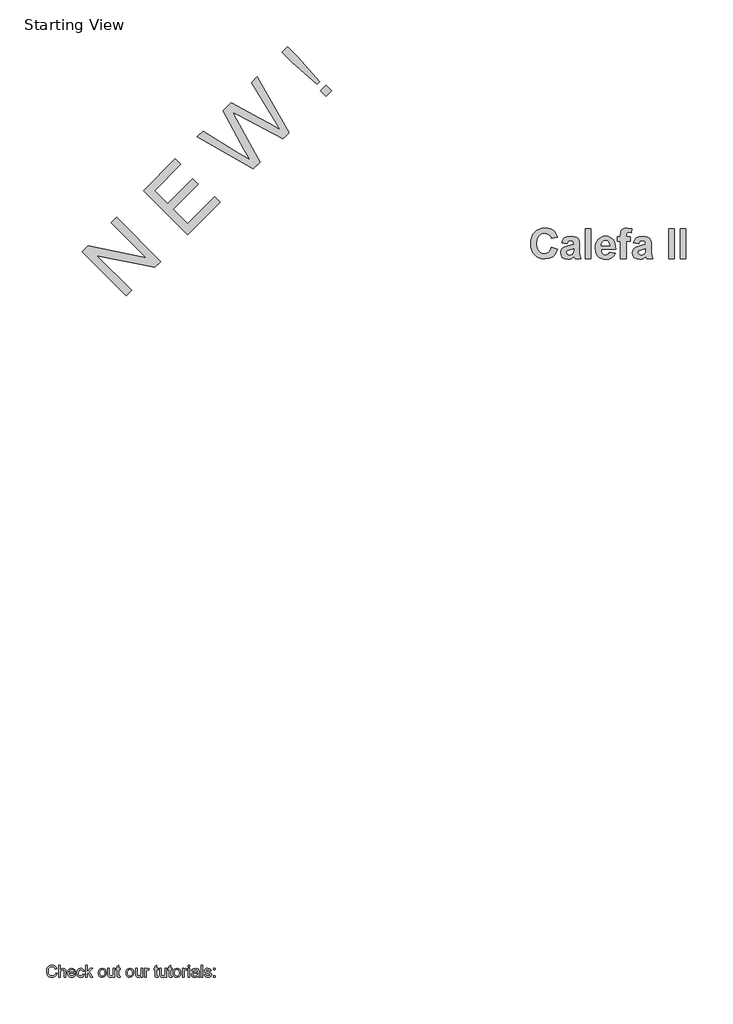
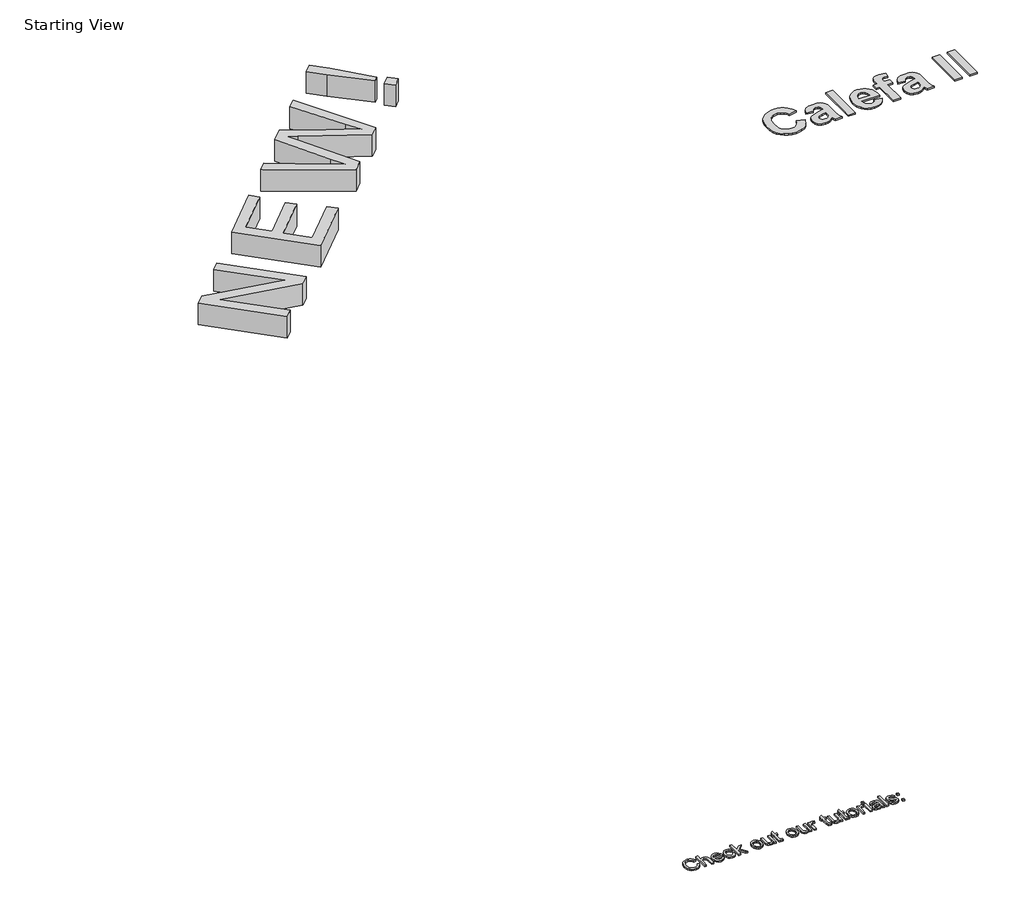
# One storey, incomplete: 3 proxies.
"""IFC4 building model written with IfcOpenShell, lengths in millimetres."""

from ifc_helpers import new_model, si_unit, frame, origin, place, context, project, spatial, polyline, outline, extrude, element, save

model = new_model("IFC4")

# Units and contexts
model_context = context("Model", 3, world=origin())
ifc_project = project(units=[si_unit("LENGTHUNIT", "METRE", prefix="MILLI")], contexts=[model_context])

# Site, building, storey
site = spatial("IfcSite", under=ifc_project)
building = spatial("IfcBuilding", under=site)
storey = spatial("IfcBuildingStorey", under=building, Name="Starting View", Elevation=-2300.0)

# Proxies
placement = place(None, origin())
element("IfcBuildingElementProxy", 1, Name="Rockwell 500", ObjectType="Rockwell 500", at=placement, inside=storey, context=model_context, shape_type="SweptSolid", body=[
    extrude(outline(polyline([(1777.8311402, -3242.6275487), (1407.6853983, -2872.4818068), (1457.2068501, -2822.960355), (1943.8364448, -2922.8165671), (1650.5935414, -2629.5736636), (1696.8617591, -2583.3054459), (2067.0075011, -2953.4511878), (2017.4860493, -3002.9726396), (1530.7660869, -2903.0260599), (1824.0993579, -3196.3593309), (1777.8311402, -3242.6275487)])), frame((0.0, 0.0, -2300.0), z_axis=(0.0, 0.0, 1.0), x_axis=(1.0, 0.0, 0.0)), (0.0, 0.0, 1.0), 150.0),
    extrude(outline(polyline([(2292.5650625, -2727.8936263), (1922.4193206, -2357.7478844), (2188.4615726, -2091.7056324), (2234.7297904, -2137.9738501), (2014.9557561, -2357.7478844), (2124.8427732, -2467.6349015), (2333.0497531, -2259.4279217), (2379.3179708, -2305.6961394), (2171.110991, -2513.9031193), (2292.5650625, -2635.3571908), (2518.122624, -2409.7996294), (2564.3908418, -2456.0678471), (2292.5650625, -2727.8936263)])), frame((0.0, 0.0, -2300.0), z_axis=(0.0, 0.0, 1.0), x_axis=(1.0, 0.0, 0.0)), (0.0, 0.0, 1.0), 150.0),
    extrude(outline(polyline([(2844.620809, -2175.8378799), (2373.5344436, -1906.6327614), (2421.2485431, -1858.9186619), (2723.0763698, -2043.6300624), (2816.2453786, -2100.6520261), (2769.1638523, -2014.8931615), (2590.5974495, -1689.5697556), (2659.3672028, -1620.8000022), (2895.3170397, -1750.1160561), (2985.9331634, -1795.0513516), (3070.7205761, -1846.1768285), (3015.3252295, -1755.7188481), (2828.987212, -1451.1799931), (2876.7013115, -1403.4658935), (3145.8160623, -1874.6426265), (3096.3849782, -1924.0737107), (2722.0823261, -1727.2530501), (2669.8498459, -1699.7812958), (2703.9184359, -1761.6831105), (2900.4679937, -2119.9906952), (2844.620809, -2175.8378799)])), frame((0.0, 0.0, -2300.0), z_axis=(0.0, 0.0, 1.0), x_axis=(1.0, 0.0, 0.0)), (0.0, 0.0, 1.0), 150.0),
    extrude(outline(polyline([(3379.8681794, -1467.0846929), (3168.4983332, -1278.8489555), (3084.9082913, -1195.2589137), (3131.1765091, -1148.9906959), (3214.7665509, -1232.5807378), (3403.0022883, -1443.950584), (3379.8681794, -1467.0846929)])), frame((0.0, 0.0, -2300.0), z_axis=(0.0, 0.0, 1.0), x_axis=(1.0, 0.0, 0.0)), (0.0, 0.0, 1.0), 150.0),
    extrude(outline(polyline([(3455.0540333, -1565.4046556), (3408.7858155, -1519.1364379), (3455.0540333, -1472.8682201), (3501.322251, -1519.1364379), (3455.0540333, -1565.4046556)])), frame((0.0, 0.0, -2300.0), z_axis=(0.0, 0.0, 1.0), x_axis=(1.0, 0.0, 0.0)), (0.0, 0.0, 1.0), 150.0),
])
element("IfcBuildingElementProxy", 2, Name="Arial 100", ObjectType="Arial 100", at=placement, inside=storey, context=model_context, shape_type="SweptSolid", body=[
    extrude(outline(polyline([(1183.0165438, -8925.7259934), (1195.5735826, -8928.9633549), (1189.7794412, -8943.5958613), (1180.6866245, -8954.2858989), (1168.7427224, -8960.8250014), (1154.3953246, -8963.0047022), (1139.8302633, -8961.3553646), (1128.2634402, -8956.4073518), (1119.3974841, -8948.332342), (1112.9350238, -8937.3020135), (1107.6743112, -8910.4466278), (1109.1611676, -8895.7987931), (1113.6217368, -8883.1497838), (1120.8230269, -8872.9012045), (1130.5320459, -8865.4546598), (1142.0467523, -8860.9205142), (1154.6651047, -8859.4091324), (1168.4330884, -8861.3650383), (1179.8159705, -8867.2327561), (1188.4581317, -8876.6505352), (1194.0039528, -8889.2566249), (1181.446914, -8892.2487318), (1171.1462181, -8876.8099507), (1154.1745954, -8871.9661711), (1134.5296969, -8877.3372483), (1123.4319233, -8891.7582225), (1120.23135, -8910.4221024), (1124.0205345, -8932.0535637), (1135.8172839, -8945.873664), (1153.1445258, -8950.4476634), (1163.626097, -8948.8902963), (1172.3602287, -8944.218195), (1178.9545135, -8936.4804104), (1183.0165438, -8925.7259934)])), frame((0.0, 0.0, -2300.0), z_axis=(0.0, 0.0, 1.0), x_axis=(1.0, 0.0, 0.0)), (0.0, 0.0, 1.0), 10.0),
    extrude(outline(polyline([(1211.2698811, -8961.4350724), (1211.2698811, -8860.9787622), (1223.8269198, -8860.9787622), (1223.8269198, -8897.9141145), (1233.6187123, -8889.0481584), (1245.6791103, -8886.0928397), (1259.7812535, -8889.3179386), (1268.3406413, -8898.2329456), (1270.9158152, -8914.7385844), (1270.9158152, -8961.4350724), (1258.3587764, -8961.4350724), (1258.3587764, -8916.0384342), (1254.3611254, -8902.7946823), (1243.03036, -8898.6498785), (1232.7419269, -8901.4457817), (1225.8747963, -8909.0241508), (1223.8269198, -8922.2433771), (1223.8269198, -8961.4350724), (1211.2698811, -8961.4350724)])), frame((0.0, 0.0, -2300.0), z_axis=(0.0, 0.0, 1.0), x_axis=(1.0, 0.0, 0.0)), (0.0, 0.0, 1.0), 10.0),
    extrude(outline(polyline([(1339.8323756, -8939.4602545), (1352.1441598, -8941.0298844), (1347.708116, -8950.306642), (1340.6294533, -8957.2412176), (1331.0675871, -8961.5638311), (1319.181933, -8963.0047022), (1304.4482591, -8960.5184331), (1293.1113623, -8953.0596256), (1285.8824811, -8941.1126578), (1283.472854, -8925.1619076), (1285.9070065, -8908.6746629), (1293.2094641, -8896.3444847), (1304.3930768, -8888.655751), (1318.4706945, -8886.0928397), (1332.1099194, -8888.6496196), (1343.0084235, -8896.3199592), (1350.1545313, -8908.625612), (1352.5365672, -8925.0883312), (1352.4629908, -8928.4728456), (1296.0298928, -8928.4728456), (1298.2034622, -8937.8722306), (1303.2526426, -8944.7822807), (1310.5397718, -8949.0313178), (1319.4271876, -8950.4476634), (1331.7389718, -8947.8234385), (1339.8323756, -8939.4602545)]), holes=[polyline([(1296.0298928, -8915.9158068), (1339.9795284, -8915.9158068), (1334.9518078, -8904.5359904), (1327.6309561, -8900.1214065), (1318.4216435, -8898.6498785), (1302.958337, -8903.3465053), (1298.0930976, -8908.8371441), (1296.0298928, -8915.9158068)])]), frame((0.0, 0.0, -2300.0), z_axis=(0.0, 0.0, 1.0), x_axis=(1.0, 0.0, 0.0)), (0.0, 0.0, 1.0), 10.0),
    extrude(outline(polyline([(1412.1825014, -8934.751365), (1424.7395401, -8936.3209948), (1421.2385298, -8947.4892791), (1414.6595735, -8955.9291052), (1405.6219391, -8961.2358029), (1394.7448948, -8963.0047022), (1381.3877127, -8960.5368272), (1370.9429297, -8953.133202), (1364.2014921, -8941.1187892), (1361.9543463, -8924.8185511), (1365.7925818, -8903.959642), (1377.4912292, -8890.5564746), (1394.5732165, -8886.0928397), (1405.1835464, -8887.6256814), (1413.6662921, -8892.2242063), (1419.7516734, -8899.6431599), (1423.1699103, -8909.6372874), (1410.6128715, -8911.2069173), (1404.7880733, -8901.8014009), (1394.6713184, -8898.6498785), (1386.5564547, -8900.2011143), (1380.1154541, -8904.8548215), (1375.9124023, -8912.8623863), (1374.5113851, -8924.4751946), (1375.8817455, -8936.2443527), (1379.9928268, -8944.2795087), (1386.3173314, -8948.9056247), (1394.3279619, -8950.4476634), (1406.1614994, -8946.5971652), (1412.1825014, -8934.751365)])), frame((0.0, 0.0, -2300.0), z_axis=(0.0, 0.0, 1.0), x_axis=(1.0, 0.0, 0.0)), (0.0, 0.0, 1.0), 10.0),
    extrude(outline(polyline([(1435.7269491, -8961.4350724), (1435.7269491, -8860.9787622), (1448.2839878, -8860.9787622), (1448.2839878, -8914.9593136), (1476.4392232, -8887.6624696), (1493.8032534, -8887.6624696), (1465.3046615, -8915.3026702), (1495.3728832, -8961.4350724), (1480.7066543, -8961.4350724), (1456.3038153, -8924.0337362), (1448.2839878, -8931.808309), (1448.2839878, -8961.4350724), (1435.7269491, -8961.4350724)])), frame((0.0, 0.0, -2300.0), z_axis=(0.0, 0.0, 1.0), x_axis=(1.0, 0.0, 0.0)), (0.0, 0.0, 1.0), 10.0),
    extrude(outline(polyline([(1542.4617786, -8924.548771), (1545.177974, -8906.7616765), (1553.3265602, -8894.25982), (1563.3942641, -8888.1345848), (1575.4485308, -8886.0928397), (1588.640166, -8888.5791089), (1599.1769195, -8896.0379164), (1606.083904, -8907.8806509), (1608.3862321, -8923.5187014), (1604.3150047, -8945.8614012), (1592.4569417, -8958.5042791), (1575.4485308, -8963.0047022), (1562.0974801, -8960.5276301), (1551.5729893, -8953.0964138), (1544.7395813, -8941.0053589), (1542.4617786, -8924.548771)]), holes=[polyline([(1555.0188174, -8924.5242455), (1556.4719512, -8935.8887335), (1560.8313529, -8943.9852031), (1567.3919151, -8948.8320483), (1575.4485308, -8950.4476634), (1583.4683583, -8948.8228513), (1590.0166578, -8943.9484149), (1594.3760595, -8935.7446464), (1595.8291934, -8924.131838), (1594.3668624, -8913.0984439), (1589.9798696, -8905.1123389), (1583.4223731, -8900.2654936), (1575.4485308, -8898.6498785), (1567.3919151, -8900.2593622), (1560.8313529, -8905.0878134), (1556.4719512, -8913.1658889), (1555.0188174, -8924.5242455)])]), frame((0.0, 0.0, -2300.0), z_axis=(0.0, 0.0, 1.0), x_axis=(1.0, 0.0, 0.0)), (0.0, 0.0, 1.0), 10.0),
    extrude(outline(polyline([(1669.6017961, -8961.4350724), (1669.6017961, -8948.7554063), (1659.7670841, -8959.4423782), (1646.9402652, -8963.0047022), (1635.1312532, -8960.5031046), (1626.9887983, -8954.2245853), (1623.2486647, -8944.9784844), (1622.5129007, -8933.3043625), (1622.5129007, -8887.6624696), (1635.0699395, -8887.6624696), (1635.0699395, -8927.3937251), (1635.830229, -8940.1960185), (1640.7966359, -8947.7130739), (1650.1531013, -8950.4476634), (1660.6377382, -8947.6517603), (1667.5661824, -8940.036603), (1669.6017961, -8926.0448244), (1669.6017961, -8887.6624696), (1682.1588349, -8887.6624696), (1682.1588349, -8961.4350724), (1669.6017961, -8961.4350724)])), frame((0.0, 0.0, -2300.0), z_axis=(0.0, 0.0, 1.0), x_axis=(1.0, 0.0, 0.0)), (0.0, 0.0, 1.0), 10.0),
    extrude(outline(polyline([(1726.1084706, -8950.9626982), (1727.6781004, -8961.8029544), (1718.2848468, -8963.0047022), (1707.7634218, -8960.9200376), (1702.514972, -8955.4508586), (1700.994393, -8941.2015626), (1700.994393, -8900.2195084), (1691.576614, -8900.2195084), (1691.576614, -8887.6624696), (1700.994393, -8887.6624696), (1700.994393, -8869.7343537), (1713.5514318, -8862.3521883), (1713.5514318, -8887.6624696), (1726.1084706, -8887.6624696), (1726.1084706, -8900.2195084), (1713.5514318, -8900.2195084), (1713.5514318, -8940.8336806), (1714.2136194, -8947.3084037), (1716.3595977, -8949.6015348), (1720.6392916, -8950.4476634), (1726.1084706, -8950.9626982)])), frame((0.0, 0.0, -2300.0), z_axis=(0.0, 0.0, 1.0), x_axis=(1.0, 0.0, 0.0)), (0.0, 0.0, 1.0), 10.0),
    extrude(outline(polyline([(1774.7669958, -8924.548771), (1777.4831912, -8906.7616765), (1785.6317774, -8894.25982), (1795.6994813, -8888.1345848), (1807.753748, -8886.0928397), (1820.9453833, -8888.5791089), (1831.4821367, -8896.0379164), (1838.3891212, -8907.8806509), (1840.6914493, -8923.5187014), (1836.6202219, -8945.8614012), (1824.762159, -8958.5042791), (1807.753748, -8963.0047022), (1794.4026973, -8960.5276301), (1783.8782066, -8953.0964138), (1777.0447985, -8941.0053589), (1774.7669958, -8924.548771)]), holes=[polyline([(1787.3240346, -8924.5242455), (1788.7771685, -8935.8887335), (1793.1365701, -8943.9852031), (1799.6971324, -8948.8320483), (1807.753748, -8950.4476634), (1815.7735755, -8948.8228513), (1822.3218751, -8943.9484149), (1826.6812767, -8935.7446464), (1828.1344106, -8924.131838), (1826.6720796, -8913.0984439), (1822.2850869, -8905.1123389), (1815.7275903, -8900.2654936), (1807.753748, -8898.6498785), (1799.6971324, -8900.2593622), (1793.1365701, -8905.0878134), (1788.7771685, -8913.1658889), (1787.3240346, -8924.5242455)])]), frame((0.0, 0.0, -2300.0), z_axis=(0.0, 0.0, 1.0), x_axis=(1.0, 0.0, 0.0)), (0.0, 0.0, 1.0), 10.0),
    extrude(outline(polyline([(1901.9070133, -8961.4350724), (1901.9070133, -8948.7554063), (1892.0723013, -8959.4423782), (1879.2454824, -8963.0047022), (1867.4364704, -8960.5031046), (1859.2940156, -8954.2245853), (1855.553882, -8944.9784844), (1854.818118, -8933.3043625), (1854.818118, -8887.6624696), (1867.3751567, -8887.6624696), (1867.3751567, -8927.3937251), (1868.1354462, -8940.1960185), (1873.1018531, -8947.7130739), (1882.4583185, -8950.4476634), (1892.9429554, -8947.6517603), (1899.8713996, -8940.036603), (1901.9070133, -8926.0448244), (1901.9070133, -8887.6624696), (1914.4640521, -8887.6624696), (1914.4640521, -8961.4350724), (1901.9070133, -8961.4350724)])), frame((0.0, 0.0, -2300.0), z_axis=(0.0, 0.0, 1.0), x_axis=(1.0, 0.0, 0.0)), (0.0, 0.0, 1.0), 10.0),
    extrude(outline(polyline([(1931.7299804, -8961.4350724), (1931.7299804, -8887.6624696), (1942.7173893, -8887.6624696), (1942.7173893, -8898.5763021), (1950.5164876, -8888.5208609), (1958.3646369, -8886.0928397), (1970.9707266, -8889.9678634), (1966.7768718, -8901.2250525), (1957.9477039, -8898.6498785), (1950.8475814, -8901.1269506), (1946.3226329, -8907.9940812), (1944.2870192, -8922.6603101), (1944.2870192, -8961.4350724), (1931.7299804, -8961.4350724)])), frame((0.0, 0.0, -2300.0), z_axis=(0.0, 0.0, 1.0), x_axis=(1.0, 0.0, 0.0)), (0.0, 0.0, 1.0), 10.0),
    extrude(outline(polyline([(2044.7433293, -8950.9626982), (2046.3129592, -8961.8029544), (2036.9197056, -8963.0047022), (2026.3982805, -8960.9200376), (2021.1498307, -8955.4508586), (2019.6292518, -8941.2015626), (2019.6292518, -8900.2195084), (2010.2114727, -8900.2195084), (2010.2114727, -8887.6624696), (2019.6292518, -8887.6624696), (2019.6292518, -8869.7343537), (2032.1862906, -8862.3521883), (2032.1862906, -8887.6624696), (2044.7433293, -8887.6624696), (2044.7433293, -8900.2195084), (2032.1862906, -8900.2195084), (2032.1862906, -8940.8336806), (2032.8484782, -8947.3084037), (2034.9944565, -8949.6015348), (2039.2741503, -8950.4476634), (2044.7433293, -8950.9626982)])), frame((0.0, 0.0, -2300.0), z_axis=(0.0, 0.0, 1.0), x_axis=(1.0, 0.0, 0.0)), (0.0, 0.0, 1.0), 10.0),
    extrude(outline(polyline([(2104.3892635, -8961.4350724), (2104.3892635, -8948.7554063), (2094.5545515, -8959.4423782), (2081.7277326, -8963.0047022), (2069.9187205, -8960.5031046), (2061.7762657, -8954.2245853), (2058.0361321, -8944.9784844), (2057.3003681, -8933.3043625), (2057.3003681, -8887.6624696), (2069.8574069, -8887.6624696), (2069.8574069, -8927.3937251), (2070.6176963, -8940.1960185), (2075.5841033, -8947.7130739), (2084.9405687, -8950.4476634), (2095.4252055, -8947.6517603), (2102.3536498, -8940.036603), (2104.3892635, -8926.0448244), (2104.3892635, -8887.6624696), (2116.9463023, -8887.6624696), (2116.9463023, -8961.4350724), (2104.3892635, -8961.4350724)])), frame((0.0, 0.0, -2300.0), z_axis=(0.0, 0.0, 1.0), x_axis=(1.0, 0.0, 0.0)), (0.0, 0.0, 1.0), 10.0),
    extrude(outline(polyline([(2160.8959379, -8950.9626982), (2162.4655678, -8961.8029544), (2153.0723142, -8963.0047022), (2142.5508891, -8960.9200376), (2137.3024393, -8955.4508586), (2135.7818604, -8941.2015626), (2135.7818604, -8900.2195084), (2126.3640813, -8900.2195084), (2126.3640813, -8887.6624696), (2135.7818604, -8887.6624696), (2135.7818604, -8869.7343537), (2148.3388992, -8862.3521883), (2148.3388992, -8887.6624696), (2160.8959379, -8887.6624696), (2160.8959379, -8900.2195084), (2148.3388992, -8900.2195084), (2148.3388992, -8940.8336806), (2149.0010868, -8947.3084037), (2151.1470651, -8949.6015348), (2155.426759, -8950.4476634), (2160.8959379, -8950.9626982)])), frame((0.0, 0.0, -2300.0), z_axis=(0.0, 0.0, 1.0), x_axis=(1.0, 0.0, 0.0)), (0.0, 0.0, 1.0), 10.0),
    extrude(outline(polyline([(2170.313717, -8924.548771), (2173.0299124, -8906.7616765), (2181.1784986, -8894.25982), (2191.2462026, -8888.1345848), (2203.3004693, -8886.0928397), (2216.4921045, -8888.5791089), (2227.0288579, -8896.0379164), (2233.9358424, -8907.8806509), (2236.2381706, -8923.5187014), (2232.1669431, -8945.8614012), (2220.3088802, -8958.5042791), (2203.3004693, -8963.0047022), (2189.9494185, -8960.5276301), (2179.4249278, -8953.0964138), (2172.5915197, -8941.0053589), (2170.313717, -8924.548771)]), holes=[polyline([(2182.8707558, -8924.5242455), (2184.3238897, -8935.8887335), (2188.6832913, -8943.9852031), (2195.2438536, -8948.8320483), (2203.3004693, -8950.4476634), (2211.3202968, -8948.8228513), (2217.8685963, -8943.9484149), (2222.2279979, -8935.7446464), (2223.6811318, -8924.131838), (2222.2188009, -8913.0984439), (2217.8318081, -8905.1123389), (2211.2743115, -8900.2654936), (2203.3004693, -8898.6498785), (2195.2438536, -8900.2593622), (2188.6832913, -8905.0878134), (2184.3238897, -8913.1658889), (2182.8707558, -8924.5242455)])]), frame((0.0, 0.0, -2300.0), z_axis=(0.0, 0.0, 1.0), x_axis=(1.0, 0.0, 0.0)), (0.0, 0.0, 1.0), 10.0),
    extrude(outline(polyline([(2250.3648392, -8961.4350724), (2250.3648392, -8887.6624696), (2261.3522481, -8887.6624696), (2261.3522481, -8898.5763021), (2269.1513464, -8888.5208609), (2276.9994956, -8886.0928397), (2289.6055853, -8889.9678634), (2285.4117306, -8901.2250525), (2276.5825627, -8898.6498785), (2269.4824402, -8901.1269506), (2264.9574917, -8907.9940812), (2262.9218779, -8922.6603101), (2262.9218779, -8961.4350724), (2250.3648392, -8961.4350724)])), frame((0.0, 0.0, -2300.0), z_axis=(0.0, 0.0, 1.0), x_axis=(1.0, 0.0, 0.0)), (0.0, 0.0, 1.0), 10.0),
    extrude(outline(polyline([(2297.4537346, -8873.535801), (2297.4537346, -8860.9787622), (2310.0107733, -8860.9787622), (2310.0107733, -8873.535801), (2297.4537346, -8873.535801)])), frame((0.0, 0.0, -2300.0), z_axis=(0.0, 0.0, 1.0), x_axis=(1.0, 0.0, 0.0)), (0.0, 0.0, 1.0), 10.0),
    extrude(outline(polyline([(2297.4537346, -8961.4350724), (2297.4537346, -8887.6624696), (2310.0107733, -8887.6624696), (2310.0107733, -8961.4350724), (2297.4537346, -8961.4350724)])), frame((0.0, 0.0, -2300.0), z_axis=(0.0, 0.0, 1.0), x_axis=(1.0, 0.0, 0.0)), (0.0, 0.0, 1.0), 10.0),
    extrude(outline(polyline([(2375.9352269, -8952.0172933), (2363.7583328, -8960.5276301), (2350.3061145, -8963.0047022), (2339.8122806, -8961.5147801), (2332.0714303, -8957.0450139), (2327.2981614, -8950.2575911), (2325.7070718, -8941.8146993), (2328.1105675, -8931.8818854), (2334.4258751, -8924.6713983), (2343.2182548, -8920.55112), (2354.0830363, -8918.6626591), (2375.8616505, -8914.346177), (2375.9352269, -8911.5502738), (2372.4771361, -8902.2796475), (2358.5957222, -8898.6498785), (2345.8915306, -8901.065637), (2339.8337404, -8909.6372874), (2327.2767016, -8908.0676576), (2332.7090924, -8895.8049244), (2343.6474504, -8888.6189628), (2360.2144029, -8886.0928397), (2375.4324548, -8888.3246572), (2384.0286308, -8893.9287262), (2387.879129, -8902.4513258), (2388.4922656, -8913.4387347), (2388.4922656, -8929.0614568), (2389.1299278, -8950.8768591), (2391.6315253, -8961.4350724), (2379.0744866, -8961.4350724), (2375.9352269, -8952.0172933)]), holes=[polyline([(2375.9352269, -8926.9032157), (2355.6771917, -8930.753714), (2344.8737237, -8932.7893277), (2339.9808932, -8936.1002656), (2338.2641106, -8940.9317825), (2342.0042442, -8947.7253367), (2352.9793904, -8950.4476634), (2365.6835819, -8947.4432938), (2373.8750877, -8940.171493), (2375.8616505, -8930.4594084), (2375.9352269, -8926.9032157)])]), frame((0.0, 0.0, -2300.0), z_axis=(0.0, 0.0, 1.0), x_axis=(1.0, 0.0, 0.0)), (0.0, 0.0, 1.0), 10.0),
    extrude(outline(polyline([(2405.7581939, -8961.4350724), (2405.7581939, -8860.9787622), (2418.3152327, -8860.9787622), (2418.3152327, -8961.4350724), (2405.7581939, -8961.4350724)])), frame((0.0, 0.0, -2300.0), z_axis=(0.0, 0.0, 1.0), x_axis=(1.0, 0.0, 0.0)), (0.0, 0.0, 1.0), 10.0),
    extrude(outline(polyline([(2432.4419013, -8939.4602545), (2444.9989401, -8937.8906247), (2450.8114756, -8947.2103019), (2464.1288038, -8950.4476634), (2476.9310973, -8947.480082), (2481.1004265, -8940.5148496), (2476.9065718, -8934.8739923), (2463.981651, -8931.2932742), (2445.0725165, -8925.1496449), (2436.8196971, -8917.975946), (2434.0115312, -8907.8469284), (2436.2678741, -8898.490463), (2442.4237661, -8891.3412895), (2450.4068054, -8887.6256814), (2461.2102733, -8886.0928397), (2476.4896389, -8888.5576491), (2486.2017235, -8895.228576), (2490.5182056, -8906.4980277), (2477.9611669, -8908.0676576), (2473.2400146, -8901.1392134), (2462.191292, -8898.6498785), (2450.1738135, -8901.0288488), (2446.5685699, -8906.5716041), (2448.0646234, -8910.2258986), (2452.7489875, -8912.9972763), (2463.5647181, -8915.6705522), (2481.9956061, -8921.5811895), (2490.5549938, -8928.2766419), (2493.6574653, -8939.1904744), (2490.0154336, -8951.2079529), (2479.5062712, -8959.9267562), (2463.9571256, -8963.0047022), (2451.2958536, -8961.5209115), (2442.0558841, -8957.0695394), (2435.8877293, -8949.6996367), (2432.4419013, -8939.4602545)])), frame((0.0, 0.0, -2300.0), z_axis=(0.0, 0.0, 1.0), x_axis=(1.0, 0.0, 0.0)), (0.0, 0.0, 1.0), 10.0),
    extrude(outline(polyline([(2510.9233936, -8961.4350724), (2510.9233936, -8948.8780336), (2523.4804324, -8948.8780336), (2523.4804324, -8961.4350724), (2510.9233936, -8961.4350724)])), frame((0.0, 0.0, -2300.0), z_axis=(0.0, 0.0, 1.0), x_axis=(1.0, 0.0, 0.0)), (0.0, 0.0, 1.0), 10.0),
    extrude(outline(polyline([(2510.9233936, -8900.2195084), (2510.9233936, -8887.6624696), (2523.4804324, -8887.6624696), (2523.4804324, -8900.2195084), (2510.9233936, -8900.2195084)])), frame((0.0, 0.0, -2300.0), z_axis=(0.0, 0.0, 1.0), x_axis=(1.0, 0.0, 0.0)), (0.0, 0.0, 1.0), 10.0),
])
element("IfcBuildingElementProxy", 3, Name="Arial 250", ObjectType="Arial 250", at=placement, inside=storey, context=model_context, shape_type="SweptSolid", body=[
    extrude(outline(polyline([(5349.5106015, -2834.7124507), (5398.0943824, -2850.9070444), (5382.7696156, -2886.6885562), (5372.248665, -2900.623577), (5359.8220029, -2911.9214411), (5329.4571398, -2926.8903697), (5291.8806217, -2931.8800126), (5267.5531474, -2929.7489369), (5245.4951303, -2923.3557099), (5225.7065705, -2912.7003315), (5208.1874678, -2897.7828018), (5193.8511405, -2879.1685081), (5183.6109067, -2857.4228379), (5177.4667665, -2832.5457912), (5175.4187197, -2804.537368), (5177.4845584, -2775.0027941), (5183.6820744, -2748.9633425), (5194.0112677, -2726.4190132), (5208.4721384, -2707.3698061), (5226.3016111, -2692.2308659), (5246.7366104, -2681.4173372), (5269.7771364, -2674.92922), (5295.4231891, -2672.7665142), (5317.8489057, -2674.5496592), (5338.0605177, -2679.899094), (5356.0580251, -2688.8148188), (5371.8414279, -2701.2968335), (5387.1661947, -2721.8089311), (5398.0943824, -2749.690834), (5349.5106015, -2757.7881309), (5342.0696285, -2740.9846585), (5329.3622496, -2728.1507593), (5312.3689968, -2720.0139249), (5292.0704021, -2717.3016467), (5264.6234126, -2722.2280295), (5242.8856499, -2737.0071777), (5234.6242721, -2748.384117), (5228.723288, -2762.8094038), (5224.0025007, -2800.8050203), (5228.5809527, -2840.8803135), (5234.3040177, -2855.8650572), (5242.3163087, -2867.4811988), (5263.38984, -2882.3789598), (5289.9828178, -2887.3448801), (5310.060002, -2884.173966), (5327.148145, -2874.6612237), (5340.5355703, -2858.3322023), (5349.5106015, -2834.7124507)])), frame((0.0, 0.0, -2300.0), z_axis=(0.0, 0.0, 1.0), x_axis=(1.0, 0.0, 0.0)), (0.0, 0.0, 1.0), 10.0),
    extrude(outline(polyline([(5479.0673507, -2802.3232634), (5434.5322181, -2794.2259666), (5444.1872957, -2770.8829781), (5458.9822589, -2754.498604), (5480.5460562, -2744.8198039), (5510.507636, -2741.5935372), (5537.5987873, -2743.5466938), (5556.7507921, -2749.4061635), (5569.687489, -2758.2625819), (5578.1327165, -2769.2065846), (5582.7823362, -2786.2156524), (5584.3322094, -2813.2672661), (5584.3322094, -2870.7074655), (5586.8942447, -2906.8922607), (5596.4781546, -2931.8800126), (5547.8943737, -2931.8800126), (5543.3396442, -2916.4445405), (5541.6316207, -2910.3083078), (5515.6317066, -2929.5077577), (5501.3191019, -2934.3234352), (5486.0892252, -2935.928661), (5461.3149763, -2932.0302554), (5442.4081045, -2920.3350386), (5430.4282171, -2902.6933695), (5426.4349213, -2880.9556068), (5428.2141125, -2866.0578458), (5433.5516861, -2852.8681084), (5442.0997113, -2841.9715508), (5453.5102576, -2833.9533291), (5490.5174344, -2822.5032453), (5535.7484284, -2810.4205602), (5535.7484284, -2805.2964896), (5534.2380928, -2792.6760934), (5529.7070859, -2784.2941259), (5521.0009103, -2779.5970612), (5506.9650686, -2778.0313729), (5496.8908927, -2779.3756507), (5489.3154919, -2783.4084841), (5479.0673507, -2802.3232634)]), holes=[polyline([(5535.7484284, -2846.8583959), (5508.3567915, -2853.5955999), (5483.8118605, -2861.2817059), (5477.2169918, -2868.1928753), (5475.0187022, -2876.7804381), (5476.7820784, -2885.3917235), (5482.0722069, -2892.7536213), (5490.082521, -2897.8065243), (5500.0064542, -2899.4908253), (5511.9151739, -2897.5297612), (5523.2229224, -2891.646569), (5533.9771448, -2877.0967388), (5535.7484284, -2855.6515542), (5535.7484284, -2846.8583959)])]), frame((0.0, 0.0, -2300.0), z_axis=(0.0, 0.0, 1.0), x_axis=(1.0, 0.0, 0.0)), (0.0, 0.0, 1.0), 10.0),
    extrude(outline(polyline([(5632.9159903, -2931.8800126), (5632.9159903, -2676.8151626), (5681.4997713, -2676.8151626), (5681.4997713, -2931.8800126), (5632.9159903, -2931.8800126)])), frame((0.0, 0.0, -2300.0), z_axis=(0.0, 0.0, 1.0), x_axis=(1.0, 0.0, 0.0)), (0.0, 0.0, 1.0), 10.0),
    extrude(outline(polyline([(5835.348411, -2875.1989348), (5883.9321919, -2883.2962317), (5872.1025473, -2905.9670813), (5854.9590517, -2922.4858831), (5832.6756704, -2932.5679665), (5805.4263688, -2935.928661), (5783.4237043, -2933.9478282), (5764.4812487, -2928.0053296), (5748.599002, -2918.1011652), (5735.7769641, -2904.2353352), (5722.3974463, -2875.5310505), (5717.937607, -2840.152822), (5719.4163126, -2818.3122616), (5723.8524293, -2798.9704764), (5731.2459571, -2782.1274664), (5741.5968962, -2767.7832316), (5754.2093849, -2756.3252403), (5768.3875618, -2748.1409608), (5784.131427, -2743.2303931), (5801.4409805, -2741.5935372), (5820.6760142, -2743.2738845), (5837.768111, -2748.3149262), (5852.7172708, -2756.7166624), (5865.5234937, -2768.4790931), (5875.7281436, -2783.7129235), (5882.8725847, -2802.5288588), (5886.9568169, -2824.9268991), (5887.9808403, -2850.9070444), (5766.5213879, -2850.9070444), (5769.6369494, -2871.3716969), (5777.9714717, -2886.7122788), (5790.2597523, -2896.2961887), (5805.2365884, -2899.4908253), (5815.4372846, -2898.0516573), (5823.8983272, -2893.7341533), (5830.556456, -2886.2220127), (5835.348411, -2875.1989348)]), holes=[polyline([(5839.3970594, -2822.5665055), (5836.4396482, -2803.3591481), (5828.5795769, -2789.3865665), (5817.1611232, -2780.8701713), (5803.5285648, -2778.0313729), (5789.1368849, -2781.0204141), (5777.4653907, -2789.9875378), (5769.8109148, -2804.1419922), (5767.3437697, -2822.5665055), (5839.3970594, -2822.5665055)])]), frame((0.0, 0.0, -2300.0), z_axis=(0.0, 0.0, 1.0), x_axis=(1.0, 0.0, 0.0)), (0.0, 0.0, 1.0), 10.0),
    extrude(outline(polyline([(5904.175434, -2745.6421856), (5928.4673244, -2745.6421856), (5928.4673244, -2732.0412574), (5929.700897, -2712.1617611), (5933.4016147, -2698.0705668), (5940.4076743, -2687.9094082), (5951.5572724, -2679.8200189), (5966.5341085, -2674.5298904), (5985.021882, -2672.7665142), (6025.6348863, -2678.8394868), (6019.5619137, -2711.9245356), (5996.9780468, -2709.2043499), (5987.8448653, -2710.4221075), (5981.7007251, -2714.07538), (5978.2135103, -2721.1921448), (5977.0511054, -2732.8003789), (5977.0511054, -2745.6421856), (6013.4889411, -2745.6421856), (6013.4889411, -2782.0800213), (5977.0511054, -2782.0800213), (5977.0511054, -2931.8800126), (5928.4673244, -2931.8800126), (5928.4673244, -2782.0800213), (5904.175434, -2782.0800213), (5904.175434, -2745.6421856)])), frame((0.0, 0.0, -2300.0), z_axis=(0.0, 0.0, 1.0), x_axis=(1.0, 0.0, 0.0)), (0.0, 0.0, 1.0), 10.0),
    extrude(outline(polyline([(6082.3159641, -2802.3232634), (6037.7808316, -2794.2259666), (6047.4359091, -2770.8829781), (6062.2308724, -2754.498604), (6083.7946697, -2744.8198039), (6113.7562495, -2741.5935372), (6140.8474007, -2743.5466938), (6159.9994055, -2749.4061635), (6172.9361024, -2758.2625819), (6181.38133, -2769.2065846), (6186.0309496, -2786.2156524), (6187.5808228, -2813.2672661), (6187.5808228, -2870.7074655), (6190.1428582, -2906.8922607), (6199.7267681, -2931.8800126), (6151.1429871, -2931.8800126), (6146.5882577, -2916.4445405), (6144.8802341, -2910.3083078), (6118.8803201, -2929.5077577), (6104.5677154, -2934.3234352), (6089.3378387, -2935.928661), (6064.5635897, -2932.0302554), (6045.6567179, -2920.3350386), (6033.6768306, -2902.6933695), (6029.6835348, -2880.9556068), (6031.462726, -2866.0578458), (6036.8002995, -2852.8681084), (6045.3483248, -2841.9715508), (6056.758871, -2833.9533291), (6093.7660479, -2822.5032453), (6138.9970419, -2810.4205602), (6138.9970419, -2805.2964896), (6137.4867063, -2792.6760934), (6132.9556993, -2784.2941259), (6124.2495238, -2779.5970612), (6110.2136821, -2778.0313729), (6100.1395062, -2779.3756507), (6092.5641054, -2783.4084841), (6082.3159641, -2802.3232634)]), holes=[polyline([(6138.9970419, -2846.8583959), (6111.605405, -2853.5955999), (6087.060474, -2861.2817059), (6080.4656053, -2868.1928753), (6078.2673157, -2876.7804381), (6080.0306919, -2885.3917235), (6085.3208204, -2892.7536213), (6093.3311345, -2897.8065243), (6103.2550676, -2899.4908253), (6115.1637874, -2897.5297612), (6126.4715359, -2891.646569), (6137.2257582, -2877.0967388), (6138.9970419, -2855.6515542), (6138.9970419, -2846.8583959)])]), frame((0.0, 0.0, -2300.0), z_axis=(0.0, 0.0, 1.0), x_axis=(1.0, 0.0, 0.0)), (0.0, 0.0, 1.0), 10.0),
    extrude(outline(polyline([(6333.3321657, -2931.8800126), (6333.3321657, -2676.8151626), (6381.9159466, -2676.8151626), (6381.9159466, -2931.8800126), (6333.3321657, -2931.8800126)])), frame((0.0, 0.0, -2300.0), z_axis=(0.0, 0.0, 1.0), x_axis=(1.0, 0.0, 0.0)), (0.0, 0.0, 1.0), 10.0),
    extrude(outline(polyline([(6430.4997276, -2931.8800126), (6430.4997276, -2676.8151626), (6479.0835085, -2676.8151626), (6479.0835085, -2931.8800126), (6430.4997276, -2931.8800126)])), frame((0.0, 0.0, -2300.0), z_axis=(0.0, 0.0, 1.0), x_axis=(1.0, 0.0, 0.0)), (0.0, 0.0, 1.0), 10.0),
])

save(model, "model.ifc")
